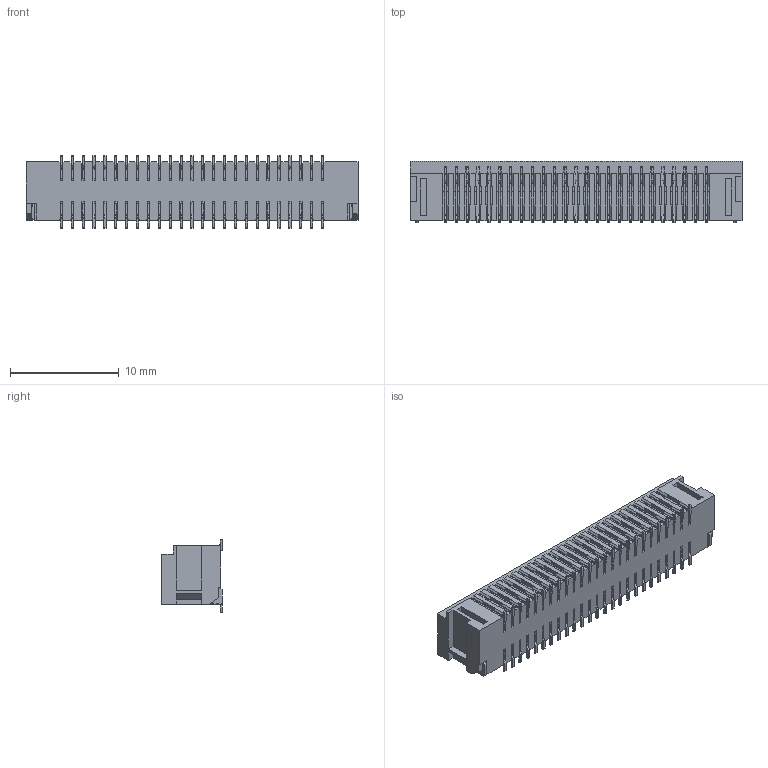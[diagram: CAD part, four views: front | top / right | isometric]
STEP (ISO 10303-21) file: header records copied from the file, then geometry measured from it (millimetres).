
FILE_DESCRIPTION(/* description */ (''),/* implementation_level */ '2;1');
FILE_NAME(/* name */ 'HC-SH25-2x25PWT-05 _1.00 双排 带扣 卧贴-HCTL__step.stp',/* time_stamp */ '2026-10-21T10:48:01+08:00',/* author */ (''),/* organization */ (''),/* preprocessor_version */ 'ST-DEVELOPER v16',/* originating_system */ 'SIEMENS PLM Software NX 10.0',/* authorisation */ '');
FILE_SCHEMA (('AUTOMOTIVE_DESIGN { 1 0 10303 214 3 1 1 1 }'));
Products named in the file (1): HC-SH25-2x10PWT-05 _1.00  双排 带扣 
卧贴-HCTL__step
Bounding box: 30.5 x 5.6 x 6.7 mm (x, y, z)
Volume: 592.5 mm3; surface area: 2639.8 mm2
Topology: 3 solids, 3 shells, 4725 faces, 14357 edges, 9466 vertices
Faces by surface type: plane 3381, cylinder 1344
Entity records: 160156 total; most frequent: ORIENTED_EDGE 28714, CARTESIAN_POINT 28642, DIRECTION 26466, EDGE_CURVE 14357, LINE 11638, VECTOR 11638, VERTEX_POINT 9466, AXIS2_PLACEMENT_3D 7414
